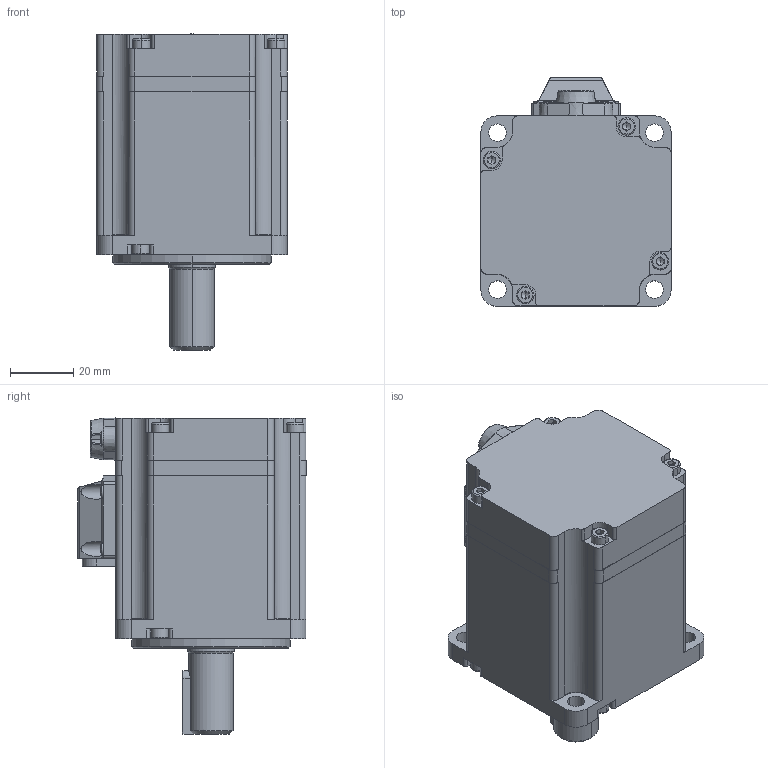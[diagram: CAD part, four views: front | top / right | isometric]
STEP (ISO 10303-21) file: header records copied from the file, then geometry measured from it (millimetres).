
FILE_DESCRIPTION((''),'2;1');
FILE_NAME('PH2-R06A23035M30D_ASM','2021-06-11T',('lisy41'),(''),'CREO PARAMETRIC BY PTC INC, 2015480','CREO PARAMETRIC BY PTC INC, 2015480','');
FILE_SCHEMA(('CONFIG_CONTROL_DESIGN'));
Length unit declared in the file: millimetre
Products named in the file (1): PH2-R06A23035M30D_ASM
Bounding box: 60.2 x 72.1 x 99.68 mm (x, y, z)
Volume: 241563.8 mm3; surface area: 30839.2 mm2
Topology: 1 solids, 35 shells, 815 faces, 2047 edges, 1294 vertices
Faces by surface type: plane 409, cylinder 279, cone 75, torus 32, sphere 12, bspline 8
Entity records: 25140 total; most frequent: CARTESIAN_POINT 5374, DIRECTION 4298, ORIENTED_EDGE 4010, EDGE_CURVE 2005, AXIS2_PLACEMENT_3D 1654, VERTEX_POINT 1294, VECTOR 990, LINE 990
